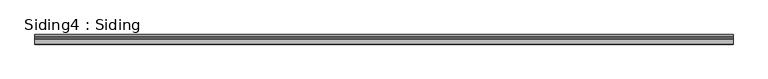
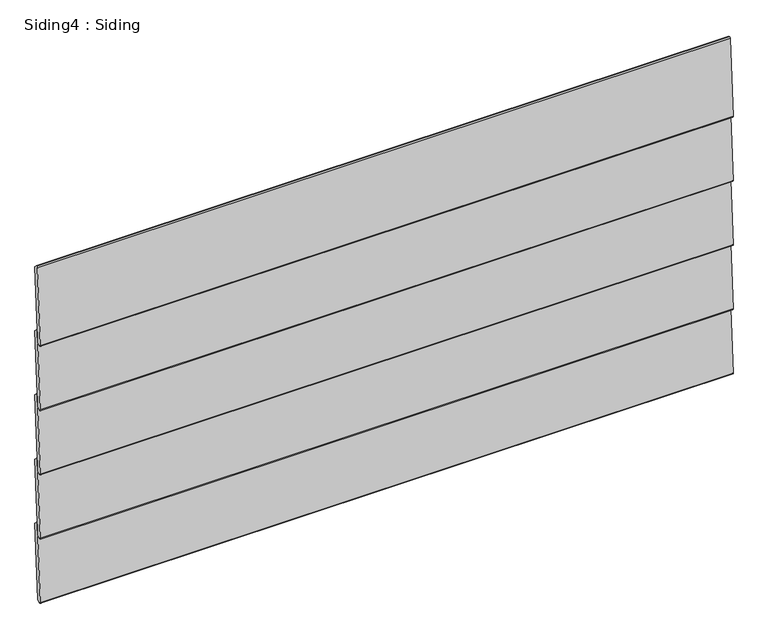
"""IFC4 building model written with IfcOpenShell, lengths in millimetres: proxy geometry, Siding4 : Siding."""

from ifc_helpers import new_model, si_unit, point, frame, frame_2d, origin, place, context, project, spatial, polyline, circle_curve, trimmed, segment, composite_curve, outline, extrude, source, transform, mapped, element, save


def siding4_siding_1c0db46d(model_context):
    return source(origin(), model_context, "Body", "SweptSolid", [
        extrude(outline(composite_curve([segment(trimmed(circle_curve(frame_2d((33663.6718498, 613.6895863)), 2.1075694), [point((33661.5781282, 613.9307891))], [point((33663.7040621, 615.7969095))], False, "CARTESIAN"), True, "CONTINUOUS"), segment(polyline([(33663.7040621, 615.7969095), (33665.7000892, 615.6670028), (33669.43233, 611.4151351), (33660.3182392, 471.3764062), (33656.0663715, 467.6441654), (33654.0703444, 467.7740721)]), True, "CONTINUOUS"), segment(trimmed(circle_curve(frame_2d((33654.3140531, 469.8699934)), 2.1100426), [point((33654.0703444, 467.7740721))], [point((33652.204224, 469.900006))], False, "CARTESIAN"), True, "CONTINUOUS"), segment(polyline([(33652.204224, 469.900006), (33661.5781282, 613.9307891)]), True, "CONTINUOUS")], self_intersect=False)), frame((-223.6179718, 0.0, 0.0), z_axis=(1.0, 0.0, 0.0), x_axis=(0.0, 1.0, 0.0)), (0.0, 0.0, 1.0), 1257.3),
        extrude(outline(composite_curve([segment(trimmed(circle_curve(frame_2d((33663.6718498, 490.4934983)), 2.1075694), [point((33661.5781282, 490.7347011))], [point((33663.7040621, 492.6008215))], False, "CARTESIAN"), True, "CONTINUOUS"), segment(polyline([(33663.7040621, 492.6008215), (33665.7000892, 492.4709148), (33669.43233, 488.2190471), (33660.3182392, 348.1803182), (33656.0663715, 344.4480774), (33654.0703444, 344.5779842)]), True, "CONTINUOUS"), segment(trimmed(circle_curve(frame_2d((33654.3140531, 346.6739054)), 2.1100426), [point((33654.0703444, 344.5779842))], [point((33652.204224, 346.703918))], False, "CARTESIAN"), True, "CONTINUOUS"), segment(polyline([(33652.204224, 346.703918), (33661.5781282, 490.7347011)]), True, "CONTINUOUS")], self_intersect=False)), frame((-223.6179718, 0.0, 0.0), z_axis=(1.0, 0.0, 0.0), x_axis=(0.0, 1.0, 0.0)), (0.0, 0.0, 1.0), 1257.3),
        extrude(outline(composite_curve([segment(trimmed(circle_curve(frame_2d((33663.6718498, 367.2974103)), 2.1075694), [point((33661.5781282, 367.5386131))], [point((33663.7040621, 369.4047335))], False, "CARTESIAN"), True, "CONTINUOUS"), segment(polyline([(33663.7040621, 369.4047335), (33665.7000892, 369.2748268), (33669.43233, 365.0229591), (33660.3182392, 224.9842302), (33656.0663715, 221.2519894), (33654.0703444, 221.3818962)]), True, "CONTINUOUS"), segment(trimmed(circle_curve(frame_2d((33654.3140531, 223.4778174)), 2.1100426), [point((33654.0703444, 221.3818962))], [point((33652.204224, 223.50783))], False, "CARTESIAN"), True, "CONTINUOUS"), segment(polyline([(33652.204224, 223.50783), (33661.5781282, 367.5386131)]), True, "CONTINUOUS")], self_intersect=False)), frame((-223.6179718, 0.0, 0.0), z_axis=(1.0, 0.0, 0.0), x_axis=(0.0, 1.0, 0.0)), (0.0, 0.0, 1.0), 1257.3),
        extrude(outline(composite_curve([segment(trimmed(circle_curve(frame_2d((33663.6718498, 244.1013223)), 2.1075694), [point((33661.5781282, 244.3425251))], [point((33663.7040621, 246.2086455))], False, "CARTESIAN"), True, "CONTINUOUS"), segment(polyline([(33663.7040621, 246.2086455), (33665.7000892, 246.0787388), (33669.43233, 241.8268711), (33660.3182392, 101.7881423), (33656.0663715, 98.0559014), (33654.0703444, 98.1858082)]), True, "CONTINUOUS"), segment(trimmed(circle_curve(frame_2d((33654.3140531, 100.2817294)), 2.1100426), [point((33654.0703444, 98.1858082))], [point((33652.204224, 100.311742))], False, "CARTESIAN"), True, "CONTINUOUS"), segment(polyline([(33652.204224, 100.311742), (33661.5781282, 244.3425251)]), True, "CONTINUOUS")], self_intersect=False)), frame((-223.6179718, 0.0, 0.0), z_axis=(1.0, 0.0, 0.0), x_axis=(0.0, 1.0, 0.0)), (0.0, 0.0, 1.0), 1257.3),
        extrude(outline(composite_curve([segment(trimmed(circle_curve(frame_2d((33663.6718498, 120.9052343)), 2.1075694), [point((33661.5781282, 121.1464371))], [point((33663.7040621, 123.0125575))], False, "CARTESIAN"), True, "CONTINUOUS"), segment(polyline([(33663.7040621, 123.0125575), (33665.7000892, 122.8826508), (33669.43233, 118.6307831), (33660.3182392, -21.4079457), (33656.0663715, -25.1401866), (33654.0703444, -25.0102798)]), True, "CONTINUOUS"), segment(trimmed(circle_curve(frame_2d((33654.3140531, -22.9143586)), 2.1100426), [point((33654.0703444, -25.0102798))], [point((33652.204224, -22.884346))], False, "CARTESIAN"), True, "CONTINUOUS"), segment(polyline([(33652.204224, -22.884346), (33661.5781282, 121.1464371)]), True, "CONTINUOUS")], self_intersect=False)), frame((-223.6179718, 0.0, 0.0), z_axis=(1.0, 0.0, 0.0), x_axis=(0.0, 1.0, 0.0)), (0.0, 0.0, 1.0), 1257.3),
    ])


if __name__ == "__main__":
    model = new_model("IFC4")
    model_context = context("Model", 3, world=origin())
    ifc_project = project(units=[si_unit("LENGTHUNIT", "METRE", prefix="MILLI")], contexts=[model_context])
    site = spatial("IfcSite", under=ifc_project)
    building = spatial("IfcBuilding", under=site)
    placement = place(None, origin())
    siding4_siding_shape = siding4_siding_1c0db46d(model_context)
    element("IfcBuildingElementProxy", 1, Name="Siding4 : Siding", ObjectType="Siding4 : Siding", at=placement, inside=building, context=model_context, shape_type="MappedRepresentation", body=[
        mapped(siding4_siding_shape, transform((0.0, 0.0, 0.0), x_axis=(1.0, 0.0, 0.0), y_axis=(0.0, 1.0, 0.0), z_axis=(0.0, 0.0, 1.0))),
    ])
    save(model, "model.ifc")
